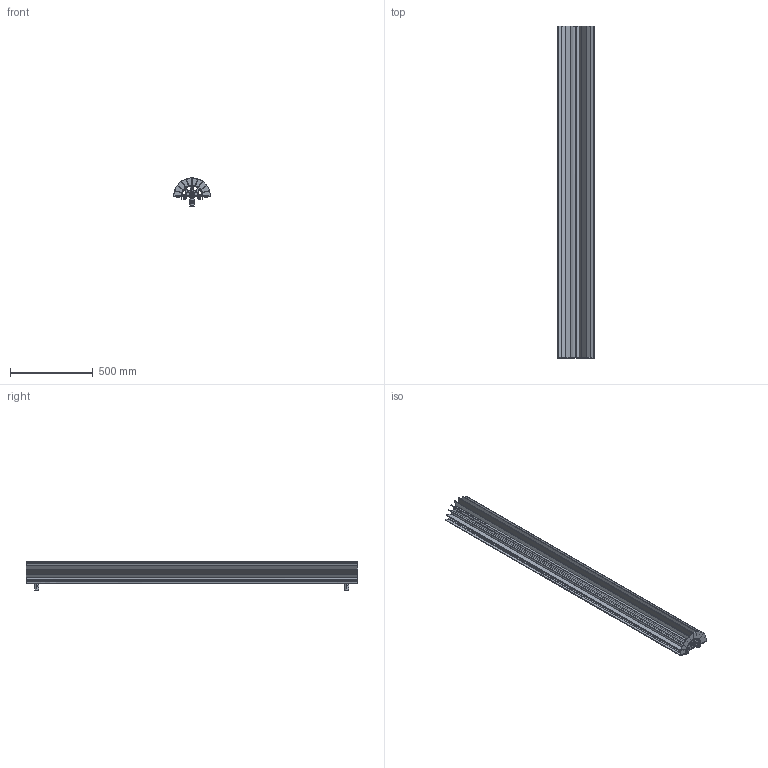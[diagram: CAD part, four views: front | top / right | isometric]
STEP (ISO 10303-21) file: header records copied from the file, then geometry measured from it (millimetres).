
FILE_DESCRIPTION (( 'STEP AP203' ), '1' );
FILE_NAME ('FRAY18V.STEP', '2026-03-04T14:05:53', ( '' ), ( '' ), 'SwSTEP 2.0', 'SolidWorks 2025', '' );
FILE_SCHEMA (( 'CONFIG_CONTROL_DESIGN' ));
Length unit declared in the file: millimetre
Products named in the file (2): RAYSUN 1800; FRAY18V
Assembly tree (1 placements, depth 2):
  FRAY18V
    RAYSUN 1800
Bounding box: 220 x 2003.2 x 170.35 mm (x, y, z)
Volume: 8264926.3 mm3; surface area: 4872650.1 mm2
Topology: 46 solids, 46 shells, 1161 faces, 2944 edges, 1805 vertices
Faces by surface type: bspline 1161
Entity records: 41855 total; most frequent: CARTESIAN_POINT 25290, ORIENTED_EDGE 5808, EDGE_CURVE 2904, VERTEX_POINT 1805, B_SPLINE_CURVE_WITH_KNOTS 1727, EDGE_LOOP 1249, ADVANCED_FACE 1161, FACE_OUTER_BOUND 1161
